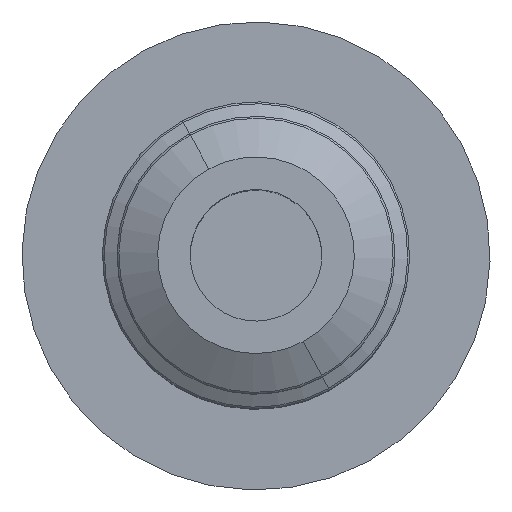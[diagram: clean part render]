
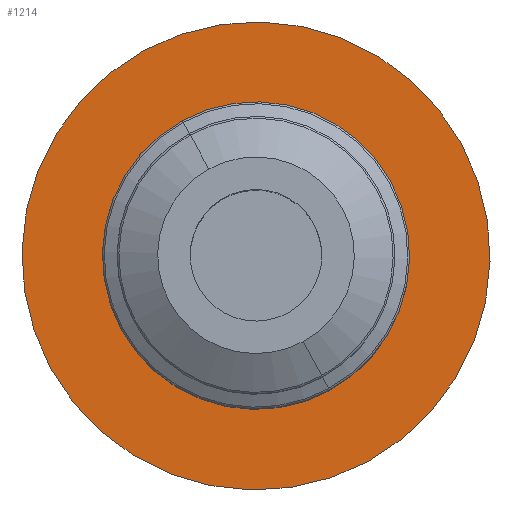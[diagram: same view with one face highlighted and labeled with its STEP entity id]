
A CAD part, top view. The second image highlights one B-rep face of the part: STEP entity #1214.
In plain terms, the highlighted planar face has unit normal (0, 0, 1).
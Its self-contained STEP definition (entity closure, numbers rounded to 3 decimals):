
#1153=CARTESIAN_POINT('Vertex',(3.835,-7.021,8.)) ;
#1160=CARTESIAN_POINT('Vertex',(-3.835,7.021,8.)) ;
#1163=CARTESIAN_POINT('Axis2P3D Location',(0.,0.,8.)) ;
#1175=CARTESIAN_POINT('Axis2P3D Location',(0.,0.,8.)) ;
#1187=CARTESIAN_POINT('Axis2P3D Location',(0.,16.,8.)) ;
#1192=CARTESIAN_POINT('Axis2P3D Location',(0.,0.,8.)) ;
#1196=CARTESIAN_POINT('Vertex',(7.671,-14.041,8.)) ;
#1198=CARTESIAN_POINT('Vertex',(-7.671,14.041,8.)) ;
#1201=CARTESIAN_POINT('Axis2P3D Location',(0.,0.,8.)) ;
#1164=DIRECTION('Axis2P3D Direction',(0.,0.,1.)) ;
#1176=DIRECTION('Axis2P3D Direction',(0.,0.,1.)) ;
#1188=DIRECTION('Axis2P3D Direction',(0.,0.,1.)) ;
#1189=DIRECTION('Axis2P3D XDirection',(1.,0.,0.)) ;
#1193=DIRECTION('Axis2P3D Direction',(0.,0.,1.)) ;
#1202=DIRECTION('Axis2P3D Direction',(0.,0.,1.)) ;
#1165=AXIS2_PLACEMENT_3D('Circle Axis2P3D',#1163,#1164,$) ;
#1177=AXIS2_PLACEMENT_3D('Circle Axis2P3D',#1175,#1176,$) ;
#1190=AXIS2_PLACEMENT_3D('Plane Axis2P3D',#1187,#1188,#1189) ;
#1194=AXIS2_PLACEMENT_3D('Circle Axis2P3D',#1192,#1193,$) ;
#1203=AXIS2_PLACEMENT_3D('Circle Axis2P3D',#1201,#1202,$) ;
#1207=ORIENTED_EDGE('',*,*,#1200,.T.) ;
#1208=ORIENTED_EDGE('',*,*,#1205,.T.) ;
#1211=ORIENTED_EDGE('',*,*,#1167,.F.) ;
#1212=ORIENTED_EDGE('',*,*,#1179,.F.) ;
#1213=FACE_BOUND('',#1210,.T.) ;
#1214=ADVANCED_FACE('PartBody',(#1209,#1213),#1191,.T.) ;
#1166=CIRCLE('generated circle',#1165,8.) ;
#1178=CIRCLE('generated circle',#1177,8.) ;
#1195=CIRCLE('generated circle',#1194,16.) ;
#1204=CIRCLE('generated circle',#1203,16.) ;
#1167=EDGE_CURVE('',#1161,#1154,#1166,.T.) ;
#1179=EDGE_CURVE('',#1154,#1161,#1178,.T.) ;
#1200=EDGE_CURVE('',#1197,#1199,#1195,.T.) ;
#1205=EDGE_CURVE('',#1199,#1197,#1204,.T.) ;
#1206=EDGE_LOOP('',(#1207,#1208)) ;
#1210=EDGE_LOOP('',(#1211,#1212)) ;
#1209=FACE_OUTER_BOUND('',#1206,.T.) ;
#1191=PLANE('Plane',#1190) ;
#1154=VERTEX_POINT('',#1153) ;
#1161=VERTEX_POINT('',#1160) ;
#1197=VERTEX_POINT('',#1196) ;
#1199=VERTEX_POINT('',#1198) ;
